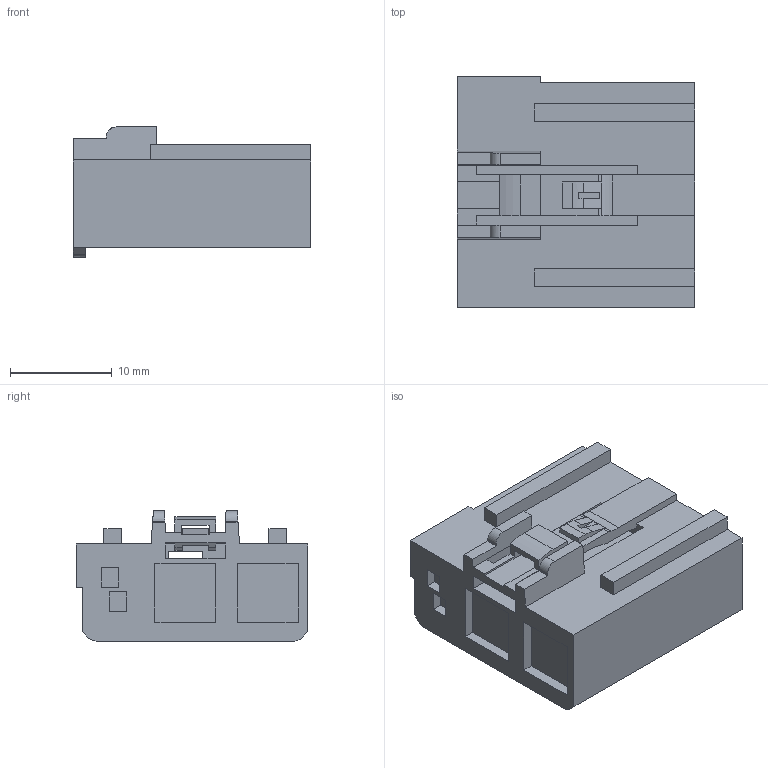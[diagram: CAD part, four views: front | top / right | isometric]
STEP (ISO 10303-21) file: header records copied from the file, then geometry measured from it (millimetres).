
FILE_DESCRIPTION(('CATIA V5 STEP','CAx-IF Rec.Pracs.--- Model Styling and Organization---1.5--- 2016-08-15','CAx-IF Rec.Pracs.---Supplemental Geometry---1.0---2011-11-01','CAx-IF Rec.Pracs.--- Composite Materials ---1.1---2010-07-15'),'2;1');
FILE_NAME('\\fss02.ad.sws.co.jp\fs100070\事務・購入\特命業務\特-35ｰ部品総合カタログメンテナンス\26年度\WEBカタログ用3D\260612_webカタログ新規登録用簡易3D\モデル保存場所\HFD-U2シリーズ\6099-0497.stp','2026-06-25T09:12:11+00:00',('none'),('none'),'CATIA Version 5-6 Release 2021 SP5 HF44','CATIA V5 STEP AP214 v2','none');
FILE_SCHEMA(('AUTOMOTIVE_DESIGN { 1 0 10303 214 1 1 1 1 }'));
Length unit declared in the file: millimetre
Products named in the file (1): 6099-0497
Bounding box: 23.4 x 22.8 x 12.8 mm (x, y, z)
Volume: 4515.7 mm3; surface area: 2536.1 mm2
Topology: 1 solids, 1 shells, 142 faces, 405 edges, 269 vertices
Faces by surface type: plane 131, cylinder 11
Entity records: 4612 total; most frequent: CARTESIAN_POINT 868, ORIENTED_EDGE 810, DIRECTION 614, EDGE_CURVE 405, VECTOR 381, LINE 381, VERTEX_POINT 269, EDGE_LOOP 154
